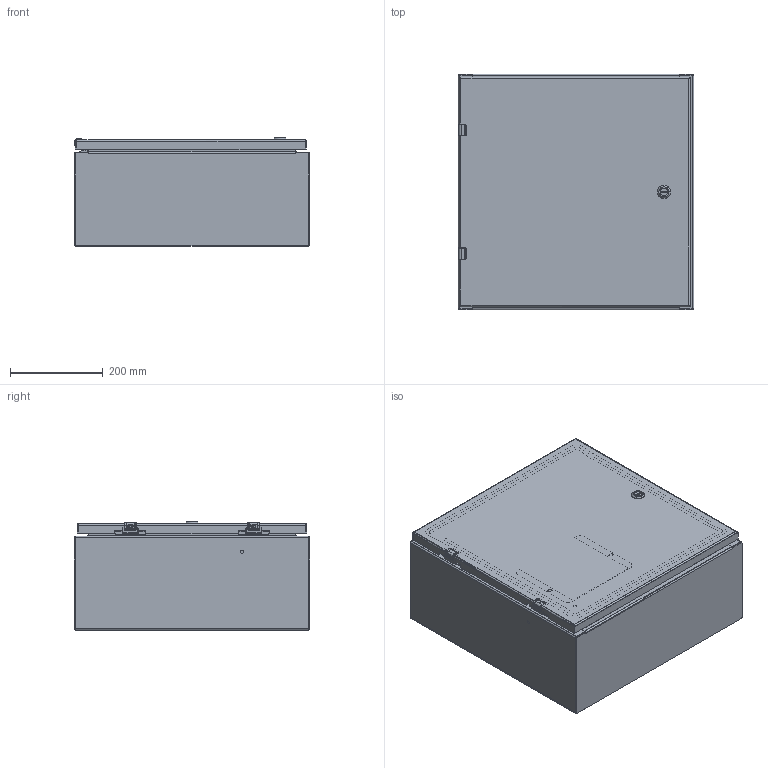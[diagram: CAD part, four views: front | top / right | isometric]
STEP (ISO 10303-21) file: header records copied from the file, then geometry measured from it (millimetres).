
FILE_DESCRIPTION((''),'2;1');
FILE_NAME('MODEL-306_ASM','2025-02-24T07:33:48',('johnh'),('SAGINAW CONTROL & ENGINEERING'),'CREO PARAMETRIC BY PTC INC, 2021284','CREO PARAMETRIC BY PTC INC, 2021284','');
FILE_SCHEMA(('AUTOMOTIVE_DESIGN { 1 0 10303 214 1 1 1 1 }'));
Length unit declared in the file: inch
Products named in the file (29): MODEL-306-BDY; MODEL-306-TP; MODEL-306-BTM; MODEL-306-DR; 100837; 100882; 111541; 100794_SHAFT; 100794_INSERT; 100794_CAM; 100794_NUT; 100794_SCREW; 100794_ASM; MODEL-306-DOOR-GASKET; 126392; 126392_ASM; 126395; 102483; 101226; 101389; 102140; 132757; MODEL-306-DOOR-ASSY_ASM; 101651; 122191; SUBPANEL; 100904; SUBPANEL-SUBASSEMBLY_ASM; MODEL-306_ASM
Assembly tree (49 placements, depth 4):
  MODEL-306_ASM
    MODEL-306-BDY
    MODEL-306-TP
    MODEL-306-BTM
    MODEL-306-DOOR-ASSY_ASM
      MODEL-306-DR
      100837  x3
      100882  x2
      111541
      100794_ASM
        100794_SHAFT
        100794_INSERT
        100794_CAM
        100794_NUT
        100794_SCREW
      MODEL-306-DOOR-GASKET
      126392_ASM  x2
        126392
      126395  x2
      102483  x6
      101226  x2
      101389  x2
      102140  x2
      132757  x2
    100837
    101651  x4
    122191
    SUBPANEL-SUBASSEMBLY_ASM
      SUBPANEL
      100904  x4
Bounding box: 508 x 508 x 234.33 mm (x, y, z)
Volume: 2884679.4 mm3; surface area: 2663866 mm2
Topology: 46 solids, 46 shells, 2529 faces, 6423 edges, 4034 vertices
Faces by surface type: plane 1060, cylinder 672, bspline 432, torus 205, cone 108, sphere 52
Entity records: 81319 total; most frequent: CARTESIAN_POINT 23534, ORIENTED_EDGE 8312, DIRECTION 7786, PRESENTATION_STYLE_ASSIGNMENT 4354, EDGE_CURVE 4156, STYLED_ITEM 4079, CURVE_STYLE 3994, AXIS2_PLACEMENT_3D 2844
